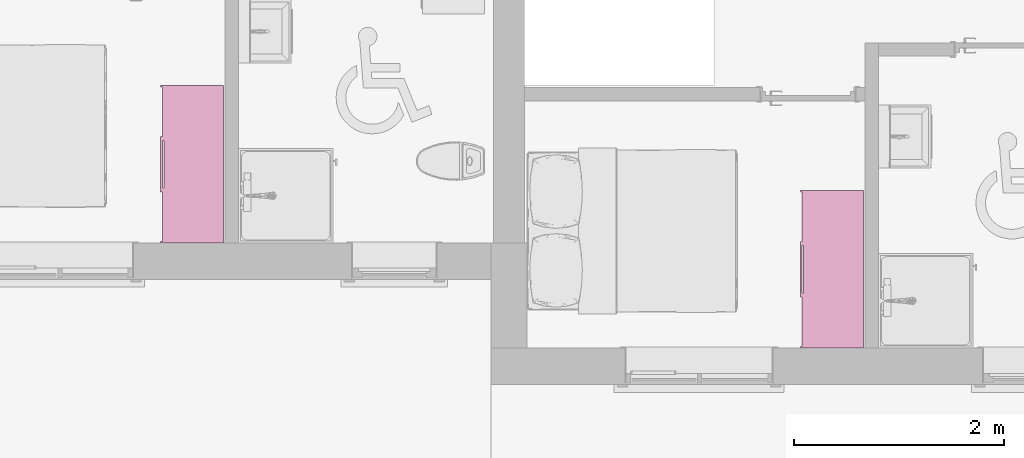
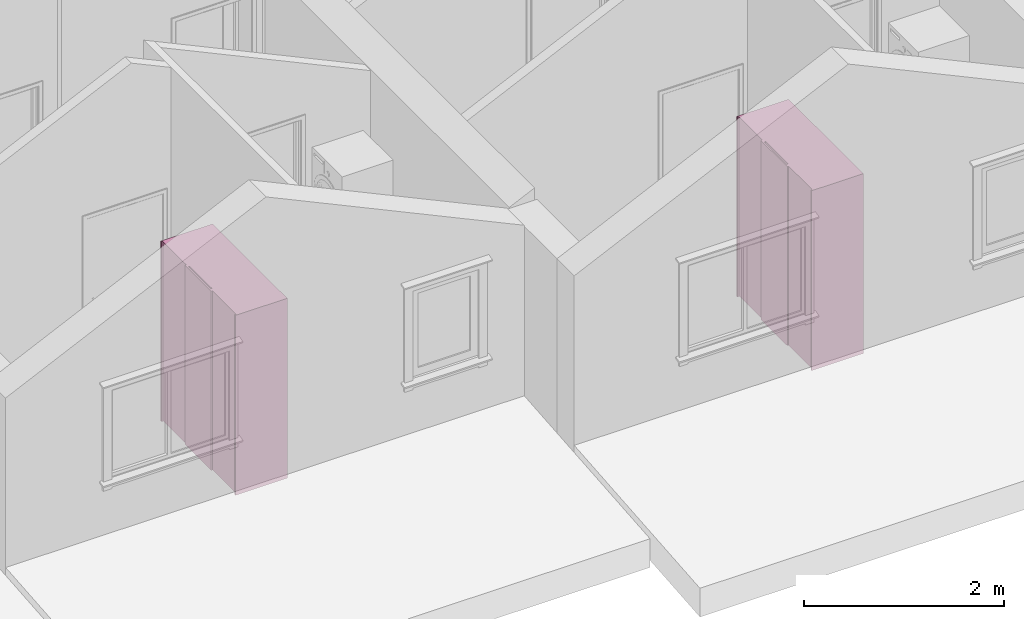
# One storey, part 37 of 44: 2 furnishings.
"""IFC2X3 building model written with IfcOpenShell, lengths in millimetres."""

from ifc_helpers import new_model, entity, si_unit, converted_unit, direction, frame, frame_2d, origin, place, context, subcontext, project, spatial, polyline, rectangle, outline, extrude, source, transform, mapped, material, material_list, type_object, type_shapes, element, save


model = new_model("IFC2X3")

# Units and contexts
model_context = context("Model", 3, precision=0.01, world=origin(), true_north=direction((0.0, 1.0)))
body_context = subcontext(model_context, "Body", "Model", "MODEL_VIEW")
ifc_project = project(units=[si_unit("LENGTHUNIT", "METRE", prefix="MILLI"), si_unit("AREAUNIT", "SQUARE_METRE"), si_unit("VOLUMEUNIT", "CUBIC_METRE"), converted_unit("PLANEANGLEUNIT", "DEGREE", entity("IfcPlaneAngleMeasure", 0.017453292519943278), si_unit("PLANEANGLEUNIT", "RADIAN"), dimensions=[0, 0, 0, 0, 0, 0, 0])], contexts=[model_context])

# Site, building, storey, space
site_placement = place(None, origin())
site = spatial("IfcSite", under=ifc_project, at=site_placement, Name="Default", CompositionType="ELEMENT")
building_placement = place(site_placement, origin())
building = spatial("IfcBuilding", under=site, at=building_placement, CompositionType="ELEMENT")
storey_placement = place(building_placement, frame((0.0, 0.0, 2681.0)))
storey = spatial("IfcBuildingStorey", under=building, at=storey_placement, Name="Et. 2", CompositionType="ELEMENT", Elevation=2681.0)
space_1_placement = place(storey_placement, origin())
space_1 = spatial("IfcSpace", under=storey, at=space_1_placement, Name="206", CompositionType="ELEMENT", InteriorOrExteriorSpace="INTERNAL")

# Furnishing
ifc_material_1 = material(Name="Møbler - Hvit")
ifc_material_2 = material(Name="Møbler - Grå mørk")
ifc_material_list = material_list([ifc_material_1, ifc_material_2])
furniture_type = type_object("IfcFurnitureType", Name="Focus Garderobeskap - Skyvedører 3 slette:150x60x220", AssemblyPlace="NOTDEFINED", material=ifc_material_list)
shared_shape = source(origin(), body_context, "Body", "SweptSolid", [
    extrude(rectangle(XDim=16.000000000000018, YDim=509.333333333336, at=frame_2d((-1.687538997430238e-14, -4.263256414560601e-14), x_axis=(1.0, 0.0))), frame((-479.33333333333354, 276.0, 10.0), z_axis=(0.0, 0.0, 1.0), x_axis=(0.0, 1.0, 0.0)), (0.0, 0.0, 1.0), 2189.9999999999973),
    extrude(rectangle(XDim=16.000000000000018, YDim=529.3333333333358, at=frame_2d((-1.687538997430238e-14, 5.684341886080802e-14), x_axis=(1.0, 0.0))), frame((0.0, 292.0, 10.0), z_axis=(0.0, 0.0, 1.0), x_axis=(0.0, 1.0, 0.0)), (0.0, 0.0, 1.0), 2189.9999999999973),
    extrude(rectangle(XDim=16.000000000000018, YDim=509.33333333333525, at=frame_2d((-1.687538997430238e-14, 0.0), x_axis=(1.0, 0.0))), frame((479.3333333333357, 276.0, 10.0), z_axis=(0.0, 0.0, 1.0), x_axis=(0.0, 1.0, 0.0)), (0.0, 0.0, 1.0), 2189.9999999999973),
    extrude(outline(polyline([(-442.0, -750.0), (158.0, -750.0), (158.0, -734.0), (126.0, -734.0), (126.0, 734.0), (158.0, 734.0), (158.0, 750.0), (-442.0, 750.0), (-442.0, -750.0)])), frame((0.0, 142.0, 0.0), z_axis=(0.0, 0.0, 1.0), x_axis=(0.0, 1.0, 0.0)), (0.0, 0.0, 1.0), 2200.0000000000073),
])
type_shapes(furniture_type, [shared_shape])
furnishing_1_placement = place(space_1_placement, frame((19164.009586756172, 11504.180957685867, 0.0), z_axis=(0.0, 0.0, 1.0), x_axis=(0.0, 1.0, 0.0)))
element("IfcFurnishingElement", 1, at=furnishing_1_placement, inside=space_1, type_object=furniture_type, material=ifc_material_list, Name="Focus Garderobeskap - Skyvedører 3 slette:150x60x220", context=body_context, shape_type="MappedRepresentation", body=[
    mapped(shared_shape, transform((0.0, 0.0, 0.0), scale=1.0)),
])

# Space
space_2_placement = place(storey_placement, origin())
space_2 = spatial("IfcSpace", under=storey, at=space_2_placement, Name="210", CompositionType="ELEMENT", InteriorOrExteriorSpace="INTERNAL")

# Furnishing
furnishing_2_placement = place(space_2_placement, frame((25250.00958675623, 10504.18095768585, 0.0), z_axis=(0.0, 0.0, 1.0), x_axis=(0.0, 1.0, 0.0)))
element("IfcFurnishingElement", 2, at=furnishing_2_placement, inside=space_2, type_object=furniture_type, material=ifc_material_list, Name="Focus Garderobeskap - Skyvedører 3 slette:150x60x220", context=body_context, shape_type="MappedRepresentation", body=[
    mapped(shared_shape, transform((0.0, 0.0, 0.0), scale=1.0)),
])

save(model, "model.ifc")
